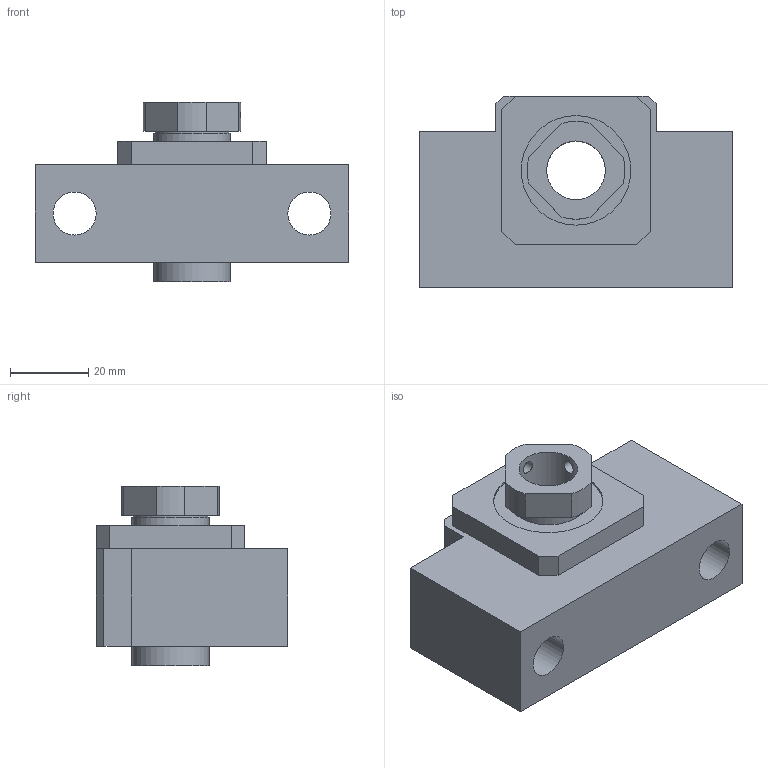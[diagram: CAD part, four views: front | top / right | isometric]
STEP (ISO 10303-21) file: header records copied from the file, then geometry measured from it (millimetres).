
FILE_DESCRIPTION(/* description */ (''),/* implementation_level */ '2;1');
FILE_NAME(/* name */ 'C:\Users\tenki620635\Desktop\官網\圖面\軸承座\3D\setp檔\AK15.stp',/* time_stamp */ '2020-12-18T18:32:12+08:00',/* author */ ('tenki620635'),/* organization */ (''),/* preprocessor_version */ 'ST-DEVELOPER v15.2',/* originating_system */ 'Autodesk Inventor 2014',/* authorisation */ '');
FILE_SCHEMA (('AUTOMOTIVE_DESIGN { 1 0 10303 214 3 1 1 }'));
Length unit declared in the file: millimetre
Products named in the file (1): AK15
Bounding box: 80 x 49 x 46 mm (x, y, z)
Volume: 83154.5 mm3; surface area: 20723.4 mm2
Topology: 1 solids, 1 shells, 48 faces, 120 edges, 81 vertices
Faces by surface type: plane 32, cylinder 16
Full cylindrical faces by diameter (mm): 3.242 x2, 11 x2, 15 x1, 17 x2, 19 x1, 19.7 x2, 28 x2
Entity records: 1509 total; most frequent: CARTESIAN_POINT 367, DIRECTION 224, ORIENTED_EDGE 208, EDGE_CURVE 104, EDGE_LOOP 78, VERTEX_POINT 78, AXIS2_PLACEMENT_3D 77, LINE 70
